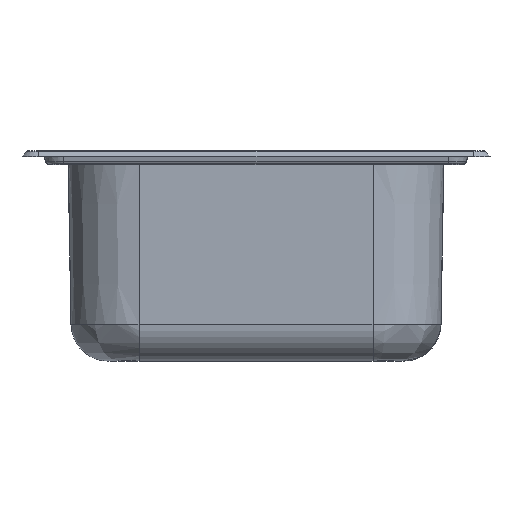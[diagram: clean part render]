
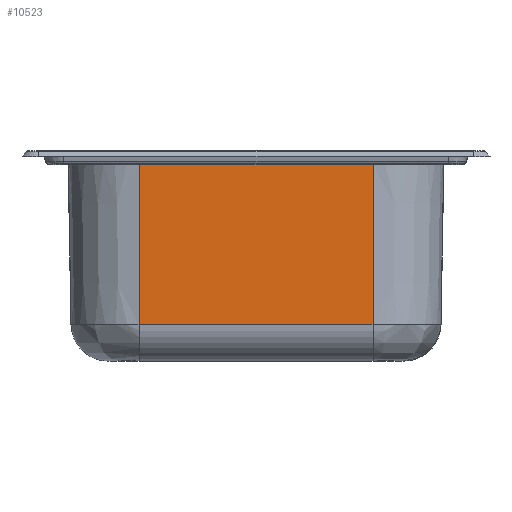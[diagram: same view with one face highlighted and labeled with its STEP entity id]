
A CAD part, left-side view. The second image highlights one B-rep face of the part: STEP entity #10523.
In plain terms, the highlighted planar face has unit normal (-1, 0, -0.018).
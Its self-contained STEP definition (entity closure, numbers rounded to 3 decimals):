
#10315=CARTESIAN_POINT('Vertex',(-530.7,125.,5.4)) ;
#10318=CARTESIAN_POINT('Line Origine',(-530.7,0.,5.4)) ;
#10322=CARTESIAN_POINT('Vertex',(-530.7,-125.,5.4)) ;
#10481=CARTESIAN_POINT('Line Origine',(-528.867,125.,-99.6)) ;
#10485=CARTESIAN_POINT('Vertex',(-527.721,125.,-165.298)) ;
#10500=CARTESIAN_POINT('Axis2P3D Location',(-530.7,0.,5.4)) ;
#10505=CARTESIAN_POINT('Line Origine',(-527.721,0.,-165.298)) ;
#10509=CARTESIAN_POINT('Vertex',(-527.721,-125.,-165.298)) ;
#10512=CARTESIAN_POINT('Line Origine',(-528.867,-125.,-99.6)) ;
#10319=DIRECTION('Vector Direction',(0.,1.,0.)) ;
#10482=DIRECTION('Vector Direction',(-0.017,0.,1.)) ;
#10501=DIRECTION('Axis2P3D Direction',(1.,0.,0.017)) ;
#10502=DIRECTION('Axis2P3D XDirection',(0.,1.,0.)) ;
#10506=DIRECTION('Vector Direction',(0.,1.,0.)) ;
#10513=DIRECTION('Vector Direction',(-0.017,0.,1.)) ;
#10503=AXIS2_PLACEMENT_3D('Plane Axis2P3D',#10500,#10501,#10502) ;
#10518=ORIENTED_EDGE('',*,*,#10511,.F.) ;
#10519=ORIENTED_EDGE('',*,*,#10516,.F.) ;
#10520=ORIENTED_EDGE('',*,*,#10324,.F.) ;
#10521=ORIENTED_EDGE('',*,*,#10487,.T.) ;
#10320=VECTOR('Line Direction',#10319,1.) ;
#10483=VECTOR('Line Direction',#10482,1.) ;
#10507=VECTOR('Line Direction',#10506,1.) ;
#10514=VECTOR('Line Direction',#10513,1.) ;
#10523=ADVANCED_FACE('Vasca',(#10522),#10504,.F.) ;
#10324=EDGE_CURVE('',#10316,#10323,#10321,.F.) ;
#10487=EDGE_CURVE('',#10316,#10486,#10484,.F.) ;
#10511=EDGE_CURVE('',#10510,#10486,#10508,.T.) ;
#10516=EDGE_CURVE('',#10323,#10510,#10515,.F.) ;
#10517=EDGE_LOOP('',(#10518,#10519,#10520,#10521)) ;
#10522=FACE_OUTER_BOUND('',#10517,.T.) ;
#10321=LINE('Line',#10318,#10320) ;
#10484=LINE('Line',#10481,#10483) ;
#10508=LINE('Line',#10505,#10507) ;
#10515=LINE('Line',#10512,#10514) ;
#10504=PLANE('',#10503) ;
#10316=VERTEX_POINT('',#10315) ;
#10323=VERTEX_POINT('',#10322) ;
#10486=VERTEX_POINT('',#10485) ;
#10510=VERTEX_POINT('',#10509) ;
